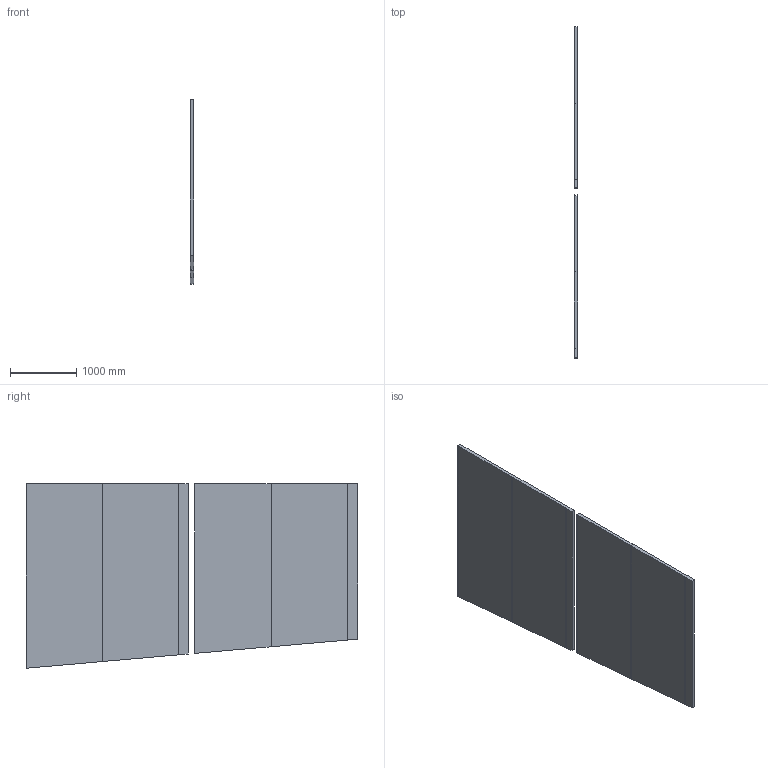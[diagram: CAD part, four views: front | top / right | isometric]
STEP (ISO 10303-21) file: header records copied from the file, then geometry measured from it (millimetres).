
FILE_DESCRIPTION (( 'STEP AP203' ), '1' );
FILE_NAME ('NEW PROJECT-CARPOT-1.STEP', '2025-10-06T07:56:32', ( '' ), ( '' ), 'SwSTEP 2.0', 'SolidWorks 2025', '' );
FILE_SCHEMA (( 'CONFIG_CONTROL_DESIGN' ));
Length unit declared in the file: centimetre
Products named in the file (1): NEW PROJECT-CARPOT-1
Bounding box: 50 x 5000 x 2780 mm (x, y, z)
Volume: 623792781.4 mm3; surface area: 27860241.4 mm2
Topology: 6 solids, 6 shells, 76 faces, 192 edges, 128 vertices
Faces by surface type: plane 76
Entity records: 2301 total; most frequent: CARTESIAN_POINT 397, ORIENTED_EDGE 384, DIRECTION 346, LINE 192, EDGE_CURVE 192, VECTOR 192, VERTEX_POINT 128, AXIS2_PLACEMENT_3D 77
